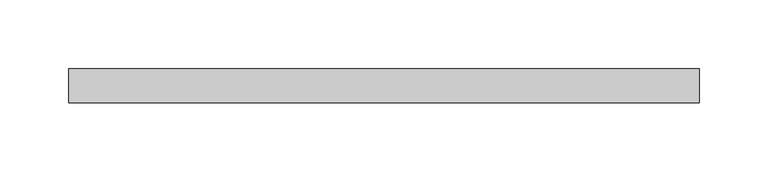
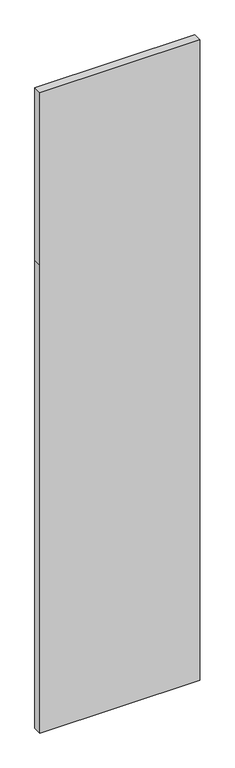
"""IFC4 building model written with IfcOpenShell, lengths in millimetres: plate geometry, Системная панель : ADSK_Cтеклопакет_25 мм."""

from ifc_helpers import new_model, si_unit, frame, origin, place, context, project, spatial, polyline, outline, extrude, source, transform, mapped, element, save


def plate_3f0cfdd4(model_context):
    return source(origin(), model_context, "Body", "SweptSolid", [
        extrude(outline(polyline([(0.0, -230.0), (0.0, 230.0), (1425.0, 230.0), (1950.0, 230.0), (1950.0, -230.0), (1425.0, -230.0), (0.0, -230.0)])), frame((0.0, -12.5, 0.0), z_axis=(0.0, 1.0, 0.0), x_axis=(0.0, 0.0, 1.0)), (0.0, 0.0, 1.0), 25.0),
    ])


if __name__ == "__main__":
    model = new_model("IFC4")
    model_context = context("Model", 3, world=origin())
    ifc_project = project(units=[si_unit("LENGTHUNIT", "METRE", prefix="MILLI")], contexts=[model_context])
    site = spatial("IfcSite", under=ifc_project)
    building = spatial("IfcBuilding", under=site)
    placement = place(None, origin())
    plate_shape = plate_3f0cfdd4(model_context)
    element("IfcPlate", 1, ObjectType="Системная панель : ADSK_Cтеклопакет_25 мм", at=placement, inside=building, context=model_context, shape_type="MappedRepresentation", body=[
        mapped(plate_shape, transform((0.0, 0.0, 0.0), x_axis=(1.0, 0.0, 0.0), y_axis=(0.0, 1.0, 0.0), z_axis=(0.0, 0.0, 1.0))),
    ])
    save(model, "model.ifc")
